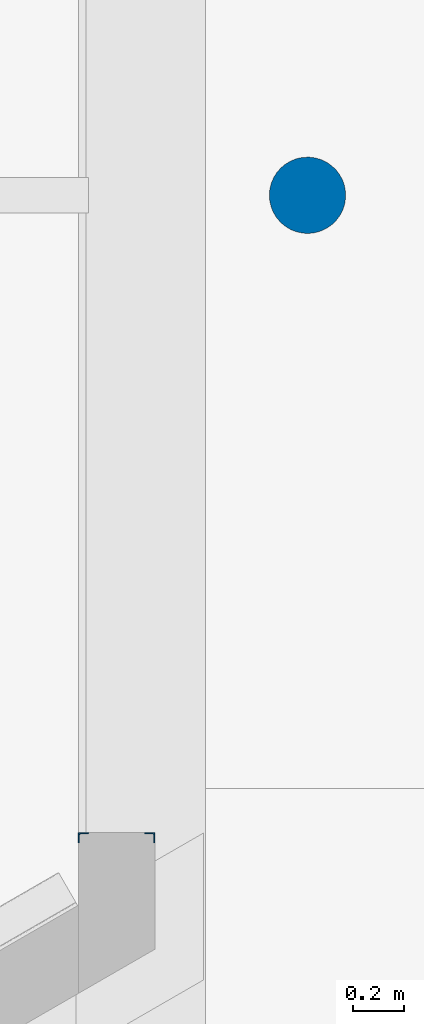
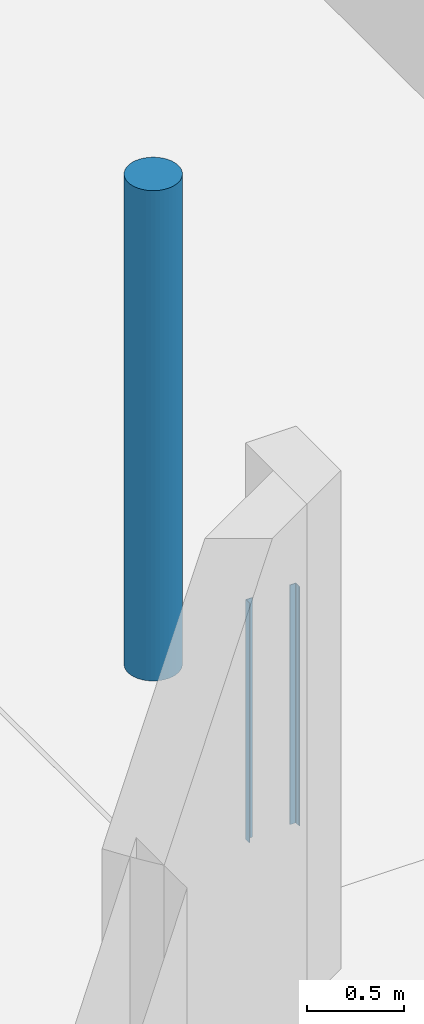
# One storey, part 4 of 42: 3 columns.
"""IFC2X3 building model written with IfcOpenShell, lengths in millimetres."""

from ifc_helpers import new_model, entity, si_unit, converted_unit, derived_unit, direction, frame, frame_2d, origin, origin_2d_with_axis, place, context, subcontext, project, spatial, polyline, circle_curve, parameter, trimmed, segment, composite_curve, circle, outline, extrude, source, transform, mapped, material, type_object, type_shapes, element, save


model = new_model("IFC2X3")

# Units and contexts
model_context = context("Model", 3, precision=0.01, world=origin(), true_north=direction((6.12303176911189e-17, 1.0)))
body_context = subcontext(model_context, "Body", "Model", "MODEL_VIEW")
ifc_project = project(units=[si_unit("LENGTHUNIT", "METRE", prefix="MILLI"), si_unit("AREAUNIT", "SQUARE_METRE", prefix="MILLI"), si_unit("VOLUMEUNIT", "CUBIC_METRE"), converted_unit("PLANEANGLEUNIT", "DEGREE", entity("IfcRatioMeasure", 0.0174532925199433), si_unit("PLANEANGLEUNIT", "RADIAN"), dimensions=[0, 0, 0, 0, 0, 0, 0]), si_unit("MASSUNIT", "GRAM", prefix="KILO"), derived_unit("MASSDENSITYUNIT", [(si_unit("MASSUNIT", "GRAM", prefix="KILO"), 1), (si_unit("LENGTHUNIT", "METRE"), -3)]), derived_unit("MOMENTOFINERTIAUNIT", [(si_unit("LENGTHUNIT", "METRE"), 4)]), si_unit("TIMEUNIT", "SECOND"), si_unit("FREQUENCYUNIT", "HERTZ"), si_unit("THERMODYNAMICTEMPERATUREUNIT", "DEGREE_CELSIUS"), derived_unit("THERMALTRANSMITTANCEUNIT", [(si_unit("MASSUNIT", "GRAM", prefix="KILO"), 1), (si_unit("THERMODYNAMICTEMPERATUREUNIT", "KELVIN"), -1), (si_unit("TIMEUNIT", "SECOND"), -3)]), derived_unit("VOLUMETRICFLOWRATEUNIT", [(si_unit("LENGTHUNIT", "METRE"), 3), (si_unit("TIMEUNIT", "SECOND"), -1)]), si_unit("ELECTRICCURRENTUNIT", "AMPERE"), si_unit("ELECTRICVOLTAGEUNIT", "VOLT"), si_unit("POWERUNIT", "WATT"), si_unit("FORCEUNIT", "NEWTON", prefix="KILO"), si_unit("ILLUMINANCEUNIT", "LUX"), si_unit("LUMINOUSFLUXUNIT", "LUMEN"), si_unit("LUMINOUSINTENSITYUNIT", "CANDELA"), derived_unit("USERDEFINED", [(si_unit("MASSUNIT", "GRAM", prefix="KILO"), -1), (si_unit("LENGTHUNIT", "METRE"), -2), (si_unit("TIMEUNIT", "SECOND"), 3), (si_unit("LUMINOUSFLUXUNIT", "LUMEN"), 1)]), derived_unit("LINEARVELOCITYUNIT", [(si_unit("LENGTHUNIT", "METRE"), 1), (si_unit("TIMEUNIT", "SECOND"), -1)]), si_unit("PRESSUREUNIT", "PASCAL"), derived_unit("USERDEFINED", [(si_unit("LENGTHUNIT", "METRE"), -2), (si_unit("MASSUNIT", "GRAM", prefix="KILO"), 1), (si_unit("TIMEUNIT", "SECOND"), -2)]), derived_unit("LINEARFORCEUNIT", [(si_unit("MASSUNIT", "GRAM", prefix="KILO"), 1), (si_unit("LENGTHUNIT", "METRE"), 1), (si_unit("TIMEUNIT", "SECOND"), -2), (si_unit("LENGTHUNIT", "METRE"), -1)]), derived_unit("PLANARFORCEUNIT", [(si_unit("MASSUNIT", "GRAM", prefix="KILO"), 1), (si_unit("LENGTHUNIT", "METRE"), 1), (si_unit("TIMEUNIT", "SECOND"), -2), (si_unit("LENGTHUNIT", "METRE"), -2)])], contexts=[model_context])

# Site, building, storey
site_placement = place(None, origin())
site = spatial("IfcSite", under=ifc_project, at=site_placement, Name="Theater aan de Parade", CompositionType="ELEMENT")
building_placement = place(site_placement, origin())
building = spatial("IfcBuilding", under=site, at=building_placement, Name="Theater aan de Parade", CompositionType="ELEMENT")
storey_placement = place(building_placement, frame((0.0, 0.0, -3300.0)))
storey = spatial("IfcBuildingStorey", under=building, at=storey_placement, Name="-1 kelder", CompositionType="ELEMENT", Elevation=-3300.0)

# Columns
ifc_material_1 = material(Name="00_PBT_MAT_beton t.p.g.")
column_type_1 = type_object("IfcColumnType", Name="28_PBT_SC_beton_rond:Ø300_bestaand", PredefinedType="COLUMN", material=ifc_material_1)
shared_shape_1 = source(origin(), body_context, "Body", "SweptSolid", [
    extrude(circle(Radius=150.000000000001, at=origin_2d_with_axis()), frame((69620.0, 29970.0, -2640.0), z_axis=(0.0, 0.0, 1.0), x_axis=(-1.0, 0.0, 0.0)), (0.0, 0.0, 1.0), 3070.0000000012),
])
type_shapes(column_type_1, [shared_shape_1])
column_1_placement = place(storey_placement, frame((0.0, 0.0, 3300.0)))
element("IfcColumn", 1, at=column_1_placement, inside=storey, type_object=column_type_1, material=ifc_material_1, Name="28_PBT_SC_beton_rond:Ø300_bestaand", ObjectType="28_PBT_SC_beton_rond:Ø300_bestaand", context=body_context, shape_type="MappedRepresentation", body=[
    mapped(shared_shape_1, transform((0.0, 0.0, 0.0), scale=1.0)),
])
ifc_material_2 = material(Name="00_PBT_MAT_staal")
column_type_2 = type_object("IfcColumnType", Name="28_PBT_SC_staal_L-profiel:L40x40x4_bestaand", PredefinedType="COLUMN", material=ifc_material_2)
shared_shape_2 = source(origin(), body_context, "Body", "SweptSolid", [
    extrude(outline(composite_curve([segment(polyline([(-15.1111111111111, -15.1111111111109), (24.8888888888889, -15.1111111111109)]), True, "CONTINUOUS"), segment(polyline([(24.8888888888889, -15.1111111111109), (24.8888888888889, -14.1111111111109)]), True, "CONTINUOUS"), segment(trimmed(circle_curve(frame_2d((21.8888888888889, -14.1111111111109), x_axis=(1.0, 0.0)), 3.0), [parameter(0.0)], [parameter(90.0000000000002)], True, "PARAMETER"), True, "CONTINUOUS"), segment(polyline([(21.8888888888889, -11.1111111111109), (-5.11111111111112, -11.1111111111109)]), True, "CONTINUOUS"), segment(trimmed(circle_curve(frame_2d((-5.11111111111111, -5.11111111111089), x_axis=(0.0, -1.0)), 6.0), [parameter(270.0)], [parameter(0.0)], True, "PARAMETER"), False, "CONTINUOUS"), segment(polyline([(-11.1111111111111, -5.11111111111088), (-11.1111111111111, 21.8888888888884)]), True, "CONTINUOUS"), segment(trimmed(circle_curve(frame_2d((-14.1111111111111, 21.8888888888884), x_axis=(1.0, 0.0)), 3.0), [parameter(0.0)], [parameter(90.0000000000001)], True, "PARAMETER"), True, "CONTINUOUS"), segment(polyline([(-14.1111111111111, 24.8888888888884), (-15.1111111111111, 24.8888888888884)]), True, "CONTINUOUS"), segment(polyline([(-15.1111111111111, 24.8888888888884), (-15.1111111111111, -15.1111111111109)]), True, "CONTINUOUS")], self_intersect=False)), frame((3.91111111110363, -3.9111111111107, -1900.0), z_axis=(0.0, 0.0, 1.0), x_axis=(0.0, -1.0, 0.0)), (0.0, 0.0, 1.0), 1500.0),
])
type_shapes(column_type_2, [shared_shape_2])
column_2_placement = place(storey_placement, frame((68731.2000000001, 27454.2466493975, 3300.0)))
element("IfcColumn", 2, at=column_2_placement, inside=storey, type_object=column_type_2, material=ifc_material_2, Name="28_PBT_SC_staal_L-profiel:L40x40x4_bestaand", ObjectType="28_PBT_SC_staal_L-profiel:L40x40x4_bestaand", context=body_context, shape_type="MappedRepresentation", body=[
    mapped(shared_shape_2, transform((0.0, 0.0, 0.0), scale=1.0)),
])
column_type_3 = type_object("IfcColumnType", Name="28_PBT_SC_staal_L-profiel:L40x40x4_bestaand", PredefinedType="COLUMN", material=ifc_material_2)
shared_shape_3 = source(origin(), body_context, "Body", "SweptSolid", [
    extrude(outline(composite_curve([segment(polyline([(-24.8888888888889, -15.1111111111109), (15.1111111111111, -15.1111111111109)]), True, "CONTINUOUS"), segment(polyline([(15.1111111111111, -15.1111111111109), (15.1111111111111, 24.8888888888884)]), True, "CONTINUOUS"), segment(polyline([(15.1111111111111, 24.8888888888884), (14.1111111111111, 24.8888888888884)]), True, "CONTINUOUS"), segment(trimmed(circle_curve(frame_2d((14.1111111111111, 21.8888888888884), x_axis=(0.0, 1.0)), 3.0), [parameter(0.0)], [parameter(89.9999999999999)], True, "PARAMETER"), True, "CONTINUOUS"), segment(polyline([(11.1111111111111, 21.8888888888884), (11.1111111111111, -5.11111111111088)]), True, "CONTINUOUS"), segment(trimmed(circle_curve(frame_2d((5.1111111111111, -5.1111111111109), x_axis=(1.0, 0.0)), 6.0), [parameter(270.0)], [parameter(0.0)], True, "PARAMETER"), False, "CONTINUOUS"), segment(polyline([(5.11111111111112, -11.1111111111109), (-21.8888888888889, -11.1111111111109)]), True, "CONTINUOUS"), segment(trimmed(circle_curve(frame_2d((-21.8888888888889, -14.1111111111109), x_axis=(0.0, 1.0)), 3.0), [parameter(0.0)], [parameter(90.0000000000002)], True, "PARAMETER"), True, "CONTINUOUS"), segment(polyline([(-24.8888888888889, -14.1111111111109), (-24.8888888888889, -15.1111111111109)]), True, "CONTINUOUS")], self_intersect=False)), frame((3.91111111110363, 3.91111111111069, -1900.0), z_axis=(0.0, 0.0, 1.0), x_axis=(0.0, -1.0, 0.0)), (0.0, 0.0, 1.0), 1500.0),
])
type_shapes(column_type_3, [shared_shape_3])
column_3_placement = place(storey_placement, frame((69008.8, 27454.2466493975, 3300.0), z_axis=(0.0, 0.0, 1.0), x_axis=(-1.0, 0.0, 0.0)))
element("IfcColumn", 3, at=column_3_placement, inside=storey, type_object=column_type_3, material=ifc_material_2, Name="28_PBT_SC_staal_L-profiel:L40x40x4_bestaand", ObjectType="28_PBT_SC_staal_L-profiel:L40x40x4_bestaand", context=body_context, shape_type="MappedRepresentation", body=[
    mapped(shared_shape_3, transform((0.0, 0.0, 0.0), scale=1.0)),
])

save(model, "model.ifc")
